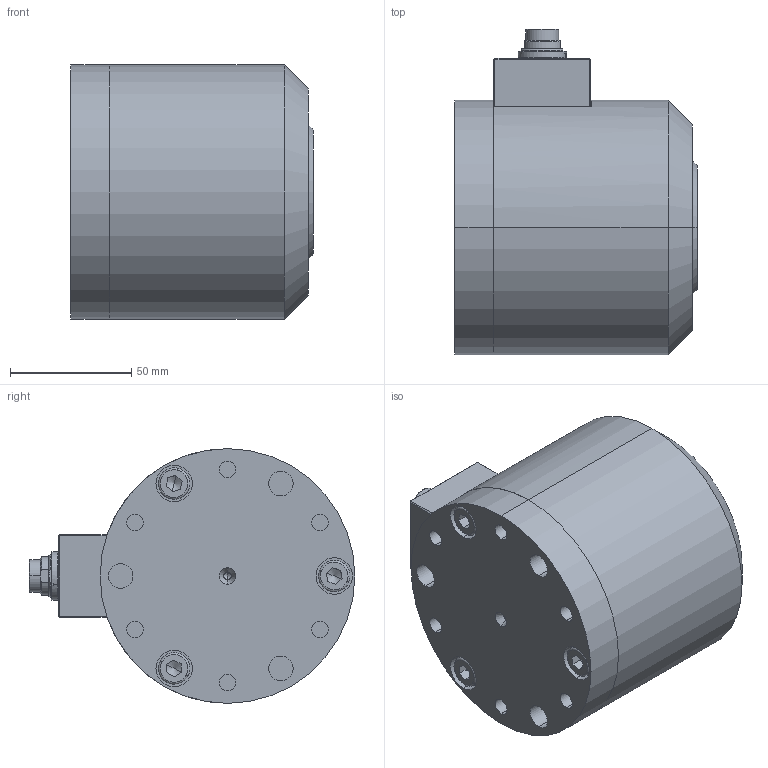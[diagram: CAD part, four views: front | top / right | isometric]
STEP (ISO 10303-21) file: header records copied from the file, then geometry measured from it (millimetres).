
FILE_DESCRIPTION (( 'STEP AP203' ), '1' );
FILE_NAME ('DRT3.STEP', '2015-04-09T06:20:15', ( 'nsi' ), ( '' ), 'SwSTEP 2.0', 'SolidWorks 2015', '' );
FILE_SCHEMA (( 'CONFIG_CONTROL_DESIGN' ));
Length unit declared in the file: millimetre
Products named in the file (1): DRT3
Bounding box: 100 x 134.25 x 105 mm (x, y, z)
Volume: 652863.8 mm3; surface area: 150649.6 mm2
Topology: 17 solids, 17 shells, 679 faces, 1566 edges, 967 vertices
Faces by surface type: plane 262, cylinder 201, cone 120, torus 58, bspline 30, sphere 8
Entity records: 20915 total; most frequent: CARTESIAN_POINT 5180, DIRECTION 3513, ORIENTED_EDGE 3076, EDGE_CURVE 1538, AXIS2_PLACEMENT_3D 1435, VERTEX_POINT 967, EDGE_LOOP 805, CIRCLE 785
